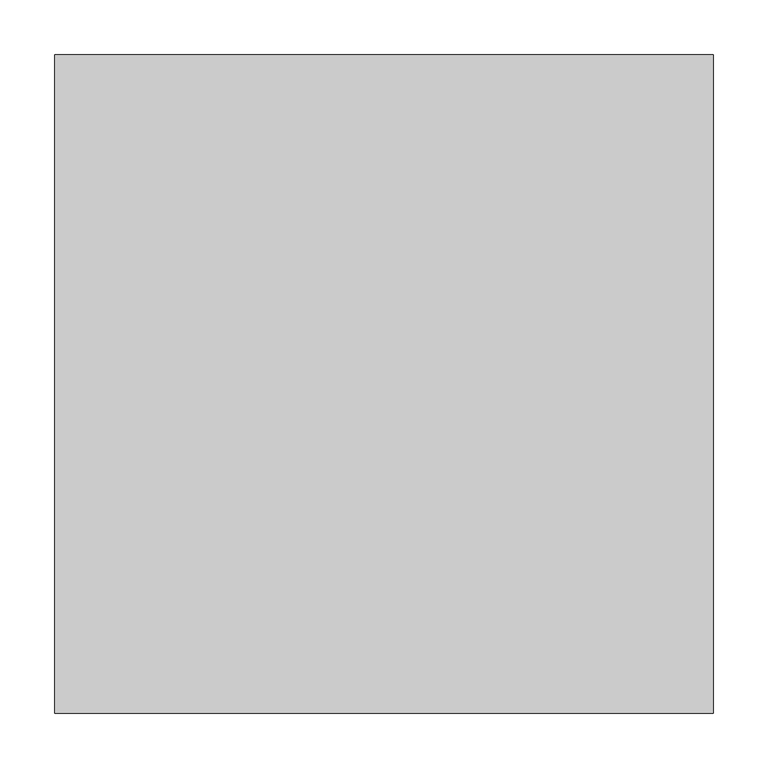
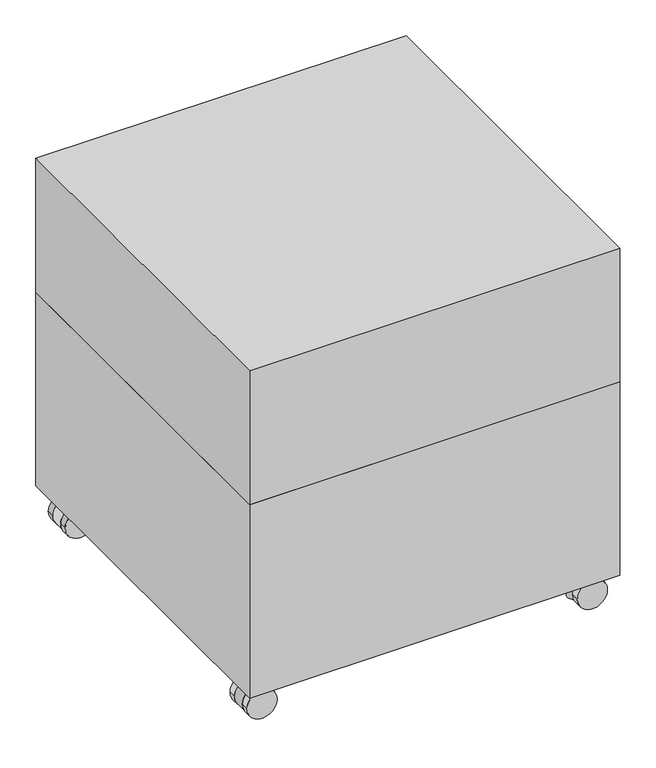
"""IFC4 building model written with IfcOpenShell, lengths in millimetres: furniture geometry, BK Library - Flipover - Medium : BK Library - Flipover - Medium."""

from ifc_helpers import new_model, si_unit, point, frame, frame_2d, origin, place, context, project, spatial, circle_curve, trimmed, segment, composite_curve, outline, extrude, faceted_brep, source, transform, mapped, element, save
from ifc_brep_helpers import plane_surface, cylinder_surface, advanced_brep


def furniture_4836a37e(model_context):
    return source(origin(), model_context, "Body", "SolidModel", [
        faceted_brep([(300.0, 300.0, 619.0527953), (-300.0, 300.0, 619.0527953), (-300.0, -300.0, 619.0527953), (300.0, -300.0, 619.0527953), (300.0, 300.0, 390.0527954), (300.0, -300.0, 390.0527954), (-300.0, -300.0, 390.0527954), (-300.0, 300.0, 390.0527954), (-9.5, 281.0, 390.0527954), (-279.0, 281.0, 390.0527954), (-279.0, 9.5, 390.0527954), (-9.5, 9.5, 390.0527954), (-279.0, -9.5, 390.0527954), (-279.0, -281.0, 390.0527954), (-9.5, -281.0, 390.0527954), (-9.5, -9.5, 390.0527954), (279.0, -281.0, 390.0527954), (279.0, -9.5, 390.0527954), (9.5, -9.5, 390.0527954), (9.5, -281.0, 390.0527954), (279.0, 281.0, 390.0527954), (9.5, 281.0, 390.0527954), (9.5, 9.5, 390.0527954), (279.0, 9.5, 390.0527954), (300.0, 300.0, 595.0527953), (-300.0, 300.0, 595.0527953), (-300.0, -300.0, 595.0527953), (300.0, -300.0, 595.0527953), (-9.5, 9.5, 595.0527953), (-9.5, 281.0, 595.0527953), (-279.0, 9.5, 595.0527953), (-279.0, 281.0, 595.0527953), (-9.5, -9.5, 595.0527953), (-279.0, -9.5, 595.0527953), (-9.5, -281.0, 595.0527953), (-279.0, -281.0, 595.0527953), (9.5, -281.0, 595.0527953), (279.0, -281.0, 595.0527953), (9.5, -9.5, 595.0527953), (279.0, -9.5, 595.0527953), (279.0, 9.5, 595.0527953), (279.0, 281.0, 595.0527953), (9.5, 9.5, 595.0527953), (9.5, 281.0, 595.0527953)], [[[0, 1, 2, 3]], [[4, 5, 6, 7], [8, 9, 10, 11], [12, 13, 14, 15], [16, 17, 18, 19], [20, 21, 22, 23]], [[1, 0, 24, 4, 7, 25]], [[2, 1, 25, 7, 6, 26]], [[3, 2, 26, 6, 5, 27]], [[0, 3, 27, 5, 4, 24]], [[8, 11, 28, 29]], [[11, 10, 30, 28]], [[10, 9, 31, 30]], [[9, 8, 29, 31]], [[12, 15, 32, 33]], [[15, 14, 34, 32]], [[14, 13, 35, 34]], [[13, 12, 33, 35]], [[16, 19, 36, 37]], [[19, 18, 38, 36]], [[18, 17, 39, 38]], [[17, 16, 37, 39]], [[20, 23, 40, 41]], [[23, 22, 42, 40]], [[22, 21, 43, 42]], [[21, 20, 41, 43]], [[29, 28, 30, 31]], [[33, 32, 34, 35]], [[37, 36, 38, 39]], [[41, 40, 42, 43]]]),
        extrude(outline(composite_curve([segment(trimmed(circle_curve(frame_2d((253.0070749, 254.962002)), 7.4539879), [point((245.5530869, 254.962002))], [point((260.4610628, 254.962002))], False, "CARTESIAN"), True, "CONTINUOUS"), segment(trimmed(circle_curve(frame_2d((253.0070749, 254.962002)), 7.4539879), [point((260.4610628, 254.962002))], [point((245.5530869, 254.962002))], False, "CARTESIAN"), True, "CONTINUOUS")], self_intersect=False)), frame((0.0, 0.0, 49.6907092), z_axis=(0.0, 0.0, 1.0), x_axis=(1.0, 0.0, 0.0)), (0.0, 0.0, 1.0), 8.9875516),
        advanced_brep(
        [(-251.467628, 244.2, 49.6907092), (-251.467628, 265.8, 49.6907092), (-267.5030829, 265.8, 49.6907092), (-267.5030829, 244.2, 49.6907092), (-251.467628, 265.8, 14.7426051), (-251.467628, 244.2, 14.7426051), (-289.8859363, 244.2, 14.7426051), (-289.8859363, 265.8, 14.7426051), (-267.5030829, 244.2, 48.7252101), (-267.5030829, 265.8, 48.7252101)],
        [
            (0, 1, circle_curve(frame((-251.467628, 255.0, 49.6907092), z_axis=(0.0, 0.0, 1.0), x_axis=(-1.0, 0.0, 0.0)), 10.8)),
            (1, 2),
            (2, 3),
            (3, 0),
            (4, 5, circle_curve(frame((-251.467628, 255.0, 14.7426051), z_axis=(0.0, 0.0, -1.0), x_axis=(-1.0, 0.0, 0.0)), 10.8)),
            (5, 6),
            (6, 7),
            (7, 4),
            (5, 0),
            (3, 8),
            (8, 6, circle_curve(frame((-267.5030829, 244.2, 24.3626051), z_axis=(0.0, -1.0, 0.0), x_axis=(-1.0, 0.0, 0.0)), 24.3626051)),
            (4, 1),
            (7, 9, circle_curve(frame((-267.5030829, 265.8, 24.3626051), z_axis=(0.0, 1.0, 0.0), x_axis=(-1.0, 0.0, 0.0)), 24.3626051)),
            (9, 2),
            (8, 9),
        ],
        [
            plane_surface(frame((-243.1404779, 244.2, 49.6907092), z_axis=(0.0, 0.0, 1.0), x_axis=(1.0, 0.0, 0.0))),
            plane_surface(frame((-243.1404779, 244.2, 14.7426051), z_axis=(0.0, 0.0, -1.0), x_axis=(-1.0, 0.0, 0.0))),
            plane_surface(frame((-301.73294, 244.2, 49.6907092), z_axis=(0.0, -1.0, 0.0), x_axis=(0.0, 0.0, -1.0))),
            cylinder_surface(frame((-251.467628, 255.0, 14.7426051), z_axis=(0.0, 0.0, 1.0), x_axis=(-1.0, 0.0, 0.0)), 10.8),
            plane_surface(frame((-251.467628, 265.8, 49.6907092), z_axis=(0.0, 1.0, 0.0), x_axis=(0.0, 0.0, -1.0))),
            cylinder_surface(frame((-267.5030829, 226.7777105, 24.3626051), z_axis=(0.0, -1.0, 0.0), x_axis=(-1.0, 0.0, 0.0)), 24.3626051),
            plane_surface(frame((-267.5030829, 276.0, 49.6907092), z_axis=(-1.0, 0.0, 0.0), x_axis=(0.0, -1.0, 0.0))),
        ],
        [
            (0, [[1, 2, 3, 4]]),
            (1, [[5, 6, 7, 8]]),
            (2, [[9, -4, 10, 11, -6]]),
            (3, [[-1, -9, -5, 12]]),
            (4, [[-12, -8, 13, 14, -2]]),
            (5, [[15, -13, -7, -11]]),
            (6, [[-15, -10, -3, -14]]),
        ],
    ),
        advanced_brep(
        [(-243.1404779, 278.8, 24.3626051), (-291.865688, 278.8, 24.3626051), (-243.1404779, 265.8, 24.3626051), (-267.5030829, 265.8, 48.7252101), (-291.865688, 265.8, 24.3626051), (-289.8859363, 265.8, 14.7426051), (-291.865688, 276.0, 24.3626051)],
        [
            (0, 1, circle_curve(frame((-267.5030829, 278.8, 24.3626051), z_axis=(0.0, 1.0, 0.0), x_axis=(-1.0, 0.0, 0.0)), 24.3626051)),
            (1, 0, circle_curve(frame((-267.5030829, 278.8, 24.3626051), z_axis=(0.0, 1.0, 0.0), x_axis=(-1.0, 0.0, 0.0)), 24.3626051)),
            (2, 3, circle_curve(frame((-267.5030829, 265.8, 24.3626051), z_axis=(0.0, -1.0, 0.0), x_axis=(-1.0, 0.0, 0.0)), 24.3626051)),
            (3, 4, circle_curve(frame((-267.5030829, 265.8, 24.3626051), z_axis=(0.0, -1.0, 0.0), x_axis=(-1.0, 0.0, 0.0)), 24.3626051)),
            (4, 5, circle_curve(frame((-267.5030829, 265.8, 24.3626051), z_axis=(0.0, -1.0, 0.0), x_axis=(-1.0, 0.0, 0.0)), 24.3626051)),
            (5, 2, circle_curve(frame((-267.5030829, 265.8, 24.3626051), z_axis=(0.0, -1.0, 0.0), x_axis=(-1.0, 0.0, 0.0)), 24.3626051)),
            (0, 2),
            (4, 6),
            (6, 1),
        ],
        [
            plane_surface(frame((-291.865688, 278.8, 24.3626051), z_axis=(0.0, 1.0, 0.0), x_axis=(0.0, 0.0, 1.0))),
            plane_surface(frame((-291.865688, 265.8, 24.3626051), z_axis=(0.0, -1.0, 0.0), x_axis=(0.0, 0.0, -1.0))),
            cylinder_surface(frame((-267.5030829, 265.8, 24.3626051), z_axis=(0.0, 1.0, 0.0), x_axis=(-1.0, 0.0, 0.0)), 24.3626051),
        ],
        [
            (0, [[1, 2]]),
            (1, [[3, 4, 5, 6]]),
            (2, [[-1, 7, -6, -5, 8, 9]]),
            (2, [[-2, -9, -8, -4, -3, -7]]),
        ],
    ),
        advanced_brep(
        [(-243.1404779, 244.2, 24.3626051), (-289.8859363, 244.2, 14.7426051), (-291.865688, 244.2, 24.3626051), (-267.5030829, 244.2, 48.7252101), (-243.1404779, 231.2, 24.3626051), (-267.5030829, 231.2, 48.7252101), (-291.865688, 231.2, 24.3626051), (-289.8859363, 231.2, 14.7426051)],
        [
            (0, 1, circle_curve(frame((-267.5030829, 244.2, 24.3626051), z_axis=(0.0, 1.0, 0.0), x_axis=(-1.0, 0.0, 0.0)), 24.3626051)),
            (1, 2, circle_curve(frame((-267.5030829, 244.2, 24.3626051), z_axis=(0.0, 1.0, 0.0), x_axis=(-1.0, 0.0, 0.0)), 24.3626051)),
            (2, 3, circle_curve(frame((-267.5030829, 244.2, 24.3626051), z_axis=(0.0, 1.0, 0.0), x_axis=(-1.0, 0.0, 0.0)), 24.3626051)),
            (3, 0, circle_curve(frame((-267.5030829, 244.2, 24.3626051), z_axis=(0.0, 1.0, 0.0), x_axis=(-1.0, 0.0, 0.0)), 24.3626051)),
            (4, 5, circle_curve(frame((-267.5030829, 231.2, 24.3626051), z_axis=(0.0, -1.0, 0.0), x_axis=(-1.0, 0.0, 0.0)), 24.3626051)),
            (5, 6, circle_curve(frame((-267.5030829, 231.2, 24.3626051), z_axis=(0.0, -1.0, 0.0), x_axis=(-1.0, 0.0, 0.0)), 24.3626051)),
            (6, 7, circle_curve(frame((-267.5030829, 231.2, 24.3626051), z_axis=(0.0, -1.0, 0.0), x_axis=(-1.0, 0.0, 0.0)), 24.3626051)),
            (7, 4, circle_curve(frame((-267.5030829, 231.2, 24.3626051), z_axis=(0.0, -1.0, 0.0), x_axis=(-1.0, 0.0, 0.0)), 24.3626051)),
            (0, 4),
            (6, 2),
        ],
        [
            plane_surface(frame((-291.865688, 244.2, 24.3626051), z_axis=(0.0, 1.0, 0.0), x_axis=(0.0, 0.0, 1.0))),
            plane_surface(frame((-291.865688, 231.2, 24.3626051), z_axis=(0.0, -1.0, 0.0), x_axis=(0.0, 0.0, -1.0))),
            cylinder_surface(frame((-267.5030829, 231.2, 24.3626051), z_axis=(0.0, 1.0, 0.0), x_axis=(-1.0, 0.0, 0.0)), 24.3626051),
        ],
        [
            (0, [[1, 2, 3, 4]]),
            (1, [[5, 6, 7, 8]]),
            (2, [[9, -8, -7, 10, -2, -1]]),
            (2, [[-9, -4, -3, -10, -6, -5]]),
        ],
    ),
        advanced_brep(
        [(251.467628, 265.8, 49.6907092), (251.467628, 244.2, 49.6907092), (267.5030829, 244.2, 49.6907092), (267.5030829, 265.8, 49.6907092), (251.467628, 244.2, 14.7426051), (251.467628, 265.8, 14.7426051), (289.8859363, 265.8, 14.7426051), (289.8859363, 244.2, 14.7426051), (267.5030829, 244.2, 48.7252101), (267.5030829, 265.8, 48.7252101)],
        [
            (0, 1, circle_curve(frame((251.467628, 255.0, 49.6907092), z_axis=(0.0, 0.0, 1.0), x_axis=(1.0, 0.0, 0.0)), 10.8)),
            (1, 2),
            (2, 3),
            (3, 0),
            (4, 5, circle_curve(frame((251.467628, 255.0, 14.7426051), z_axis=(0.0, 0.0, -1.0), x_axis=(1.0, 0.0, 0.0)), 10.8)),
            (5, 6),
            (6, 7),
            (7, 4),
            (1, 4),
            (7, 8, circle_curve(frame((267.5030829, 244.2, 24.3626051), z_axis=(0.0, -1.0, 0.0), x_axis=(1.0, 0.0, 0.0)), 24.3626051)),
            (8, 2),
            (0, 5),
            (3, 9),
            (9, 6, circle_curve(frame((267.5030829, 265.8, 24.3626051), z_axis=(0.0, 1.0, 0.0), x_axis=(1.0, 0.0, 0.0)), 24.3626051)),
            (9, 8),
        ],
        [
            plane_surface(frame((301.73294, 244.2, 49.6907092), z_axis=(0.0, 0.0, 1.0), x_axis=(0.0, 1.0, 0.0))),
            plane_surface(frame((301.73294, 244.2, 14.7426051), z_axis=(0.0, 0.0, -1.0), x_axis=(0.0, -1.0, 0.0))),
            plane_surface(frame((251.467628, 244.2, 49.6907092), z_axis=(0.0, -1.0, 0.0), x_axis=(0.0, 0.0, -1.0))),
            cylinder_surface(frame((251.467628, 255.0, 14.7426051), z_axis=(0.0, 0.0, 1.0), x_axis=(1.0, 0.0, 0.0)), 10.8),
            plane_surface(frame((301.73294, 265.8, 49.6907092), z_axis=(0.0, 1.0, 0.0), x_axis=(0.0, 0.0, -1.0))),
            cylinder_surface(frame((267.5030829, 226.7777105, 24.3626051), z_axis=(0.0, -1.0, 0.0), x_axis=(1.0, 0.0, 0.0)), 24.3626051),
            plane_surface(frame((267.5030829, 276.0, 48.7252101), z_axis=(1.0, 0.0, 0.0), x_axis=(0.0, -1.0, 0.0))),
        ],
        [
            (0, [[1, 2, 3, 4]]),
            (1, [[5, 6, 7, 8]]),
            (2, [[9, -8, 10, 11, -2]]),
            (3, [[-1, 12, -5, -9]]),
            (4, [[-12, -4, 13, 14, -6]]),
            (5, [[15, -10, -7, -14]]),
            (6, [[-15, -13, -3, -11]]),
        ],
    ),
        advanced_brep(
        [(243.1404779, 278.8, 24.3626051), (291.865688, 278.8, 24.3626051), (243.1404779, 265.8, 24.3626051), (289.8859363, 265.8, 14.7426051), (291.865688, 265.8, 24.3626051), (267.5030829, 265.8, 48.7252101), (291.865688, 276.0, 24.3626051)],
        [
            (0, 1, circle_curve(frame((267.5030829, 278.8, 24.3626051), z_axis=(0.0, 1.0, 0.0), x_axis=(1.0, 0.0, 0.0)), 24.3626051)),
            (1, 0, circle_curve(frame((267.5030829, 278.8, 24.3626051), z_axis=(0.0, 1.0, 0.0), x_axis=(1.0, 0.0, 0.0)), 24.3626051)),
            (2, 3, circle_curve(frame((267.5030829, 265.8, 24.3626051), z_axis=(0.0, -1.0, 0.0), x_axis=(1.0, 0.0, 0.0)), 24.3626051)),
            (3, 4, circle_curve(frame((267.5030829, 265.8, 24.3626051), z_axis=(0.0, -1.0, 0.0), x_axis=(1.0, 0.0, 0.0)), 24.3626051)),
            (4, 5, circle_curve(frame((267.5030829, 265.8, 24.3626051), z_axis=(0.0, -1.0, 0.0), x_axis=(1.0, 0.0, 0.0)), 24.3626051)),
            (5, 2, circle_curve(frame((267.5030829, 265.8, 24.3626051), z_axis=(0.0, -1.0, 0.0), x_axis=(1.0, 0.0, 0.0)), 24.3626051)),
            (1, 6),
            (6, 4),
            (2, 0),
        ],
        [
            plane_surface(frame((291.865688, 278.8, 24.3626051), z_axis=(0.0, 1.0, 0.0), x_axis=(0.0, 0.0, -1.0))),
            plane_surface(frame((291.865688, 265.8, 24.3626051), z_axis=(0.0, -1.0, 0.0), x_axis=(0.0, 0.0, 1.0))),
            cylinder_surface(frame((267.5030829, 265.8, 24.3626051), z_axis=(0.0, 1.0, 0.0), x_axis=(1.0, 0.0, 0.0)), 24.3626051),
        ],
        [
            (0, [[1, 2]]),
            (1, [[3, 4, 5, 6]]),
            (2, [[-2, 7, 8, -4, -3, 9]]),
            (2, [[-1, -9, -6, -5, -8, -7]]),
        ],
    ),
        advanced_brep(
        [(243.1404779, 244.2, 24.3626051), (267.5030829, 244.2, 48.7252101), (291.865688, 244.2, 24.3626051), (289.8859363, 244.2, 14.7426051), (243.1404779, 231.2, 24.3626051), (289.8859363, 231.2, 14.7426051), (291.865688, 231.2, 24.3626051), (267.5030829, 231.2, 48.7252101)],
        [
            (0, 1, circle_curve(frame((267.5030829, 244.2, 24.3626051), z_axis=(0.0, 1.0, 0.0), x_axis=(1.0, 0.0, 0.0)), 24.3626051)),
            (1, 2, circle_curve(frame((267.5030829, 244.2, 24.3626051), z_axis=(0.0, 1.0, 0.0), x_axis=(1.0, 0.0, 0.0)), 24.3626051)),
            (2, 3, circle_curve(frame((267.5030829, 244.2, 24.3626051), z_axis=(0.0, 1.0, 0.0), x_axis=(1.0, 0.0, 0.0)), 24.3626051)),
            (3, 0, circle_curve(frame((267.5030829, 244.2, 24.3626051), z_axis=(0.0, 1.0, 0.0), x_axis=(1.0, 0.0, 0.0)), 24.3626051)),
            (4, 5, circle_curve(frame((267.5030829, 231.2, 24.3626051), z_axis=(0.0, -1.0, 0.0), x_axis=(1.0, 0.0, 0.0)), 24.3626051)),
            (5, 6, circle_curve(frame((267.5030829, 231.2, 24.3626051), z_axis=(0.0, -1.0, 0.0), x_axis=(1.0, 0.0, 0.0)), 24.3626051)),
            (6, 7, circle_curve(frame((267.5030829, 231.2, 24.3626051), z_axis=(0.0, -1.0, 0.0), x_axis=(1.0, 0.0, 0.0)), 24.3626051)),
            (7, 4, circle_curve(frame((267.5030829, 231.2, 24.3626051), z_axis=(0.0, -1.0, 0.0), x_axis=(1.0, 0.0, 0.0)), 24.3626051)),
            (2, 6),
            (4, 0),
        ],
        [
            plane_surface(frame((291.865688, 244.2, 24.3626051), z_axis=(0.0, 1.0, 0.0), x_axis=(0.0, 0.0, -1.0))),
            plane_surface(frame((291.865688, 231.2, 24.3626051), z_axis=(0.0, -1.0, 0.0), x_axis=(0.0, 0.0, 1.0))),
            cylinder_surface(frame((267.5030829, 231.2, 24.3626051), z_axis=(0.0, 1.0, 0.0), x_axis=(1.0, 0.0, 0.0)), 24.3626051),
        ],
        [
            (0, [[1, 2, 3, 4]]),
            (1, [[5, 6, 7, 8]]),
            (2, [[9, -6, -5, 10, -4, -3]]),
            (2, [[-9, -2, -1, -10, -8, -7]]),
        ],
    ),
        extrude(outline(composite_curve([segment(trimmed(circle_curve(frame_2d((-253.0070749, 254.962002)), 7.4539879), [point((-245.5530869, 254.962002))], [point((-260.4610628, 254.962002))], False, "CARTESIAN"), True, "CONTINUOUS"), segment(trimmed(circle_curve(frame_2d((-253.0070749, 254.962002)), 7.4539879), [point((-260.4610628, 254.962002))], [point((-245.5530869, 254.962002))], False, "CARTESIAN"), True, "CONTINUOUS")], self_intersect=False)), frame((0.0, 0.0, 49.6907092), z_axis=(0.0, 0.0, 1.0), x_axis=(1.0, 0.0, 0.0)), (0.0, 0.0, 1.0), 8.9875516),
        advanced_brep(
        [(-251.467628, -265.8, 49.6907092), (-251.467628, -244.2, 49.6907092), (-267.5030829, -244.2, 49.6907092), (-267.5030829, -265.8, 49.6907092), (-251.467628, -244.2, 14.7426051), (-251.467628, -265.8, 14.7426051), (-289.8859363, -265.8, 14.7426051), (-289.8859363, -244.2, 14.7426051), (-267.5030829, -244.2, 48.7252101), (-267.5030829, -265.8, 48.7252101)],
        [
            (0, 1, circle_curve(frame((-251.467628, -255.0, 49.6907092), z_axis=(0.0, 0.0, 1.0), x_axis=(-1.0, 0.0, 0.0)), 10.8)),
            (1, 2),
            (2, 3),
            (3, 0),
            (4, 5, circle_curve(frame((-251.467628, -255.0, 14.7426051), z_axis=(0.0, 0.0, -1.0), x_axis=(-1.0, 0.0, 0.0)), 10.8)),
            (5, 6),
            (6, 7),
            (7, 4),
            (1, 4),
            (7, 8, circle_curve(frame((-267.5030829, -244.2, 24.3626051), z_axis=(0.0, 1.0, 0.0), x_axis=(-1.0, 0.0, 0.0)), 24.3626051)),
            (8, 2),
            (0, 5),
            (3, 9),
            (9, 6, circle_curve(frame((-267.5030829, -265.8, 24.3626051), z_axis=(0.0, -1.0, 0.0), x_axis=(-1.0, 0.0, 0.0)), 24.3626051)),
            (9, 8),
        ],
        [
            plane_surface(frame((-301.73294, -244.2, 49.6907092), z_axis=(0.0, 0.0, 1.0), x_axis=(0.0, -1.0, 0.0))),
            plane_surface(frame((-301.73294, -244.2, 14.7426051), z_axis=(0.0, 0.0, -1.0), x_axis=(0.0, 1.0, 0.0))),
            plane_surface(frame((-251.467628, -244.2, 49.6907092), z_axis=(0.0, 1.0, 0.0), x_axis=(0.0, 0.0, -1.0))),
            cylinder_surface(frame((-251.467628, -255.0, 14.7426051), z_axis=(0.0, 0.0, 1.0), x_axis=(-1.0, 0.0, 0.0)), 10.8),
            plane_surface(frame((-301.73294, -265.8, 49.6907092), z_axis=(0.0, -1.0, 0.0), x_axis=(0.0, 0.0, -1.0))),
            cylinder_surface(frame((-267.5030829, -226.7777105, 24.3626051), z_axis=(0.0, 1.0, 0.0), x_axis=(-1.0, 0.0, 0.0)), 24.3626051),
            plane_surface(frame((-267.5030829, -276.0, 48.7252101), z_axis=(-1.0, 0.0, 0.0), x_axis=(0.0, 1.0, 0.0))),
        ],
        [
            (0, [[1, 2, 3, 4]]),
            (1, [[5, 6, 7, 8]]),
            (2, [[9, -8, 10, 11, -2]]),
            (3, [[-1, 12, -5, -9]]),
            (4, [[-12, -4, 13, 14, -6]]),
            (5, [[15, -10, -7, -14]]),
            (6, [[-15, -13, -3, -11]]),
        ],
    ),
        advanced_brep(
        [(-243.1404779, -278.8, 24.3626051), (-291.865688, -278.8, 24.3626051), (-243.1404779, -265.8, 24.3626051), (-289.8859363, -265.8, 14.7426051), (-291.865688, -265.8, 24.3626051), (-267.5030829, -265.8, 48.7252101), (-291.865688, -276.0, 24.3626051)],
        [
            (0, 1, circle_curve(frame((-267.5030829, -278.8, 24.3626051), z_axis=(0.0, -1.0, 0.0), x_axis=(-1.0, 0.0, 0.0)), 24.3626051)),
            (1, 0, circle_curve(frame((-267.5030829, -278.8, 24.3626051), z_axis=(0.0, -1.0, 0.0), x_axis=(-1.0, 0.0, 0.0)), 24.3626051)),
            (2, 3, circle_curve(frame((-267.5030829, -265.8, 24.3626051), z_axis=(0.0, 1.0, 0.0), x_axis=(-1.0, 0.0, 0.0)), 24.3626051)),
            (3, 4, circle_curve(frame((-267.5030829, -265.8, 24.3626051), z_axis=(0.0, 1.0, 0.0), x_axis=(-1.0, 0.0, 0.0)), 24.3626051)),
            (4, 5, circle_curve(frame((-267.5030829, -265.8, 24.3626051), z_axis=(0.0, 1.0, 0.0), x_axis=(-1.0, 0.0, 0.0)), 24.3626051)),
            (5, 2, circle_curve(frame((-267.5030829, -265.8, 24.3626051), z_axis=(0.0, 1.0, 0.0), x_axis=(-1.0, 0.0, 0.0)), 24.3626051)),
            (1, 6),
            (6, 4),
            (2, 0),
        ],
        [
            plane_surface(frame((-291.865688, -278.8, 24.3626051), z_axis=(0.0, -1.0, 0.0), x_axis=(0.0, 0.0, -1.0))),
            plane_surface(frame((-291.865688, -265.8, 24.3626051), z_axis=(0.0, 1.0, 0.0), x_axis=(0.0, 0.0, 1.0))),
            cylinder_surface(frame((-267.5030829, -265.8, 24.3626051), z_axis=(0.0, -1.0, 0.0), x_axis=(-1.0, 0.0, 0.0)), 24.3626051),
        ],
        [
            (0, [[1, 2]]),
            (1, [[3, 4, 5, 6]]),
            (2, [[-2, 7, 8, -4, -3, 9]]),
            (2, [[-1, -9, -6, -5, -8, -7]]),
        ],
    ),
        advanced_brep(
        [(-243.1404779, -244.2, 24.3626051), (-267.5030829, -244.2, 48.7252101), (-291.865688, -244.2, 24.3626051), (-289.8859363, -244.2, 14.7426051), (-243.1404779, -231.2, 24.3626051), (-289.8859363, -231.2, 14.7426051), (-291.865688, -231.2, 24.3626051), (-267.5030829, -231.2, 48.7252101)],
        [
            (0, 1, circle_curve(frame((-267.5030829, -244.2, 24.3626051), z_axis=(0.0, -1.0, 0.0), x_axis=(-1.0, 0.0, 0.0)), 24.3626051)),
            (1, 2, circle_curve(frame((-267.5030829, -244.2, 24.3626051), z_axis=(0.0, -1.0, 0.0), x_axis=(-1.0, 0.0, 0.0)), 24.3626051)),
            (2, 3, circle_curve(frame((-267.5030829, -244.2, 24.3626051), z_axis=(0.0, -1.0, 0.0), x_axis=(-1.0, 0.0, 0.0)), 24.3626051)),
            (3, 0, circle_curve(frame((-267.5030829, -244.2, 24.3626051), z_axis=(0.0, -1.0, 0.0), x_axis=(-1.0, 0.0, 0.0)), 24.3626051)),
            (4, 5, circle_curve(frame((-267.5030829, -231.2, 24.3626051), z_axis=(0.0, 1.0, 0.0), x_axis=(-1.0, 0.0, 0.0)), 24.3626051)),
            (5, 6, circle_curve(frame((-267.5030829, -231.2, 24.3626051), z_axis=(0.0, 1.0, 0.0), x_axis=(-1.0, 0.0, 0.0)), 24.3626051)),
            (6, 7, circle_curve(frame((-267.5030829, -231.2, 24.3626051), z_axis=(0.0, 1.0, 0.0), x_axis=(-1.0, 0.0, 0.0)), 24.3626051)),
            (7, 4, circle_curve(frame((-267.5030829, -231.2, 24.3626051), z_axis=(0.0, 1.0, 0.0), x_axis=(-1.0, 0.0, 0.0)), 24.3626051)),
            (2, 6),
            (4, 0),
        ],
        [
            plane_surface(frame((-291.865688, -244.2, 24.3626051), z_axis=(0.0, -1.0, 0.0), x_axis=(0.0, 0.0, -1.0))),
            plane_surface(frame((-291.865688, -231.2, 24.3626051), z_axis=(0.0, 1.0, 0.0), x_axis=(0.0, 0.0, 1.0))),
            cylinder_surface(frame((-267.5030829, -231.2, 24.3626051), z_axis=(0.0, -1.0, 0.0), x_axis=(-1.0, 0.0, 0.0)), 24.3626051),
        ],
        [
            (0, [[1, 2, 3, 4]]),
            (1, [[5, 6, 7, 8]]),
            (2, [[9, -6, -5, 10, -4, -3]]),
            (2, [[-9, -2, -1, -10, -8, -7]]),
        ],
    ),
        extrude(outline(composite_curve([segment(trimmed(circle_curve(frame_2d((24.3626051, 267.5030829)), 24.3626051), [point((24.3626051, 243.1404779))], [point((24.3626051, 291.865688))], False, "CARTESIAN"), True, "CONTINUOUS"), segment(trimmed(circle_curve(frame_2d((24.3626051, 267.5030829)), 24.3626051), [point((24.3626051, 291.865688))], [point((24.3626051, 243.1404779))], False, "CARTESIAN"), True, "CONTINUOUS")], self_intersect=False)), frame((0.0, -278.8, 0.0), z_axis=(0.0, 1.0, 0.0), x_axis=(0.0, 0.0, 1.0)), (0.0, 0.0, 1.0), 13.0),
        extrude(outline(composite_curve([segment(trimmed(circle_curve(frame_2d((24.3626051, 267.5030829)), 24.3626051), [point((24.3626051, 243.1404779))], [point((24.3626051, 291.865688))], False, "CARTESIAN"), True, "CONTINUOUS"), segment(trimmed(circle_curve(frame_2d((24.3626051, 267.5030829)), 24.3626051), [point((24.3626051, 291.865688))], [point((24.3626051, 243.1404779))], False, "CARTESIAN"), True, "CONTINUOUS")], self_intersect=False)), frame((0.0, -244.2, 0.0), z_axis=(0.0, 1.0, 0.0), x_axis=(0.0, 0.0, 1.0)), (0.0, 0.0, 1.0), 13.0),
        extrude(outline(composite_curve([segment(trimmed(circle_curve(frame_2d((-253.0070749, -254.962002)), 7.4539879), [point((-245.5530869, -254.962002))], [point((-260.4610628, -254.962002))], False, "CARTESIAN"), True, "CONTINUOUS"), segment(trimmed(circle_curve(frame_2d((-253.0070749, -254.962002)), 7.4539879), [point((-260.4610628, -254.962002))], [point((-245.5530869, -254.962002))], False, "CARTESIAN"), True, "CONTINUOUS")], self_intersect=False)), frame((0.0, 0.0, 49.6907092), z_axis=(0.0, 0.0, 1.0), x_axis=(1.0, 0.0, 0.0)), (0.0, 0.0, 1.0), 8.9875516),
        extrude(outline(composite_curve([segment(trimmed(circle_curve(frame_2d((253.0070749, -254.962002)), 7.4539879), [point((245.5530869, -254.962002))], [point((260.4610628, -254.962002))], False, "CARTESIAN"), True, "CONTINUOUS"), segment(trimmed(circle_curve(frame_2d((253.0070749, -254.962002)), 7.4539879), [point((260.4610628, -254.962002))], [point((245.5530869, -254.962002))], False, "CARTESIAN"), True, "CONTINUOUS")], self_intersect=False)), frame((0.0, 0.0, 49.6907092), z_axis=(0.0, 0.0, 1.0), x_axis=(1.0, 0.0, 0.0)), (0.0, 0.0, 1.0), 8.9875516),
        advanced_brep(
        [(251.467628, -244.2, 49.6907092), (251.467628, -265.8, 49.6907092), (267.5030829, -265.8, 49.6907092), (267.5030829, -244.2, 49.6907092), (251.467628, -265.8, 14.7426051), (251.467628, -244.2, 14.7426051), (289.8859363, -244.2, 14.7426051), (289.8859363, -265.8, 14.7426051), (267.5030829, -244.2, 48.7252101), (267.5030829, -265.8, 48.7252101)],
        [
            (0, 1, circle_curve(frame((251.467628, -255.0, 49.6907092), z_axis=(0.0, 0.0, 1.0), x_axis=(1.0, 0.0, 0.0)), 10.8)),
            (1, 2),
            (2, 3),
            (3, 0),
            (4, 5, circle_curve(frame((251.467628, -255.0, 14.7426051), z_axis=(0.0, 0.0, -1.0), x_axis=(1.0, 0.0, 0.0)), 10.8)),
            (5, 6),
            (6, 7),
            (7, 4),
            (5, 0),
            (3, 8),
            (8, 6, circle_curve(frame((267.5030829, -244.2, 24.3626051), z_axis=(0.0, 1.0, 0.0), x_axis=(1.0, 0.0, 0.0)), 24.3626051)),
            (4, 1),
            (7, 9, circle_curve(frame((267.5030829, -265.8, 24.3626051), z_axis=(0.0, -1.0, 0.0), x_axis=(1.0, 0.0, 0.0)), 24.3626051)),
            (9, 2),
            (8, 9),
        ],
        [
            plane_surface(frame((243.1404779, -244.2, 49.6907092), z_axis=(0.0, 0.0, 1.0), x_axis=(-1.0, 0.0, 0.0))),
            plane_surface(frame((243.1404779, -244.2, 14.7426051), z_axis=(0.0, 0.0, -1.0), x_axis=(1.0, 0.0, 0.0))),
            plane_surface(frame((301.73294, -244.2, 49.6907092), z_axis=(0.0, 1.0, 0.0), x_axis=(0.0, 0.0, -1.0))),
            cylinder_surface(frame((251.467628, -255.0, 14.7426051), z_axis=(0.0, 0.0, 1.0), x_axis=(1.0, 0.0, 0.0)), 10.8),
            plane_surface(frame((251.467628, -265.8, 49.6907092), z_axis=(0.0, -1.0, 0.0), x_axis=(0.0, 0.0, -1.0))),
            cylinder_surface(frame((267.5030829, -226.7777105, 24.3626051), z_axis=(0.0, 1.0, 0.0), x_axis=(1.0, 0.0, 0.0)), 24.3626051),
            plane_surface(frame((267.5030829, -276.0, 49.6907092), z_axis=(1.0, 0.0, 0.0), x_axis=(0.0, 1.0, 0.0))),
        ],
        [
            (0, [[1, 2, 3, 4]]),
            (1, [[5, 6, 7, 8]]),
            (2, [[9, -4, 10, 11, -6]]),
            (3, [[-1, -9, -5, 12]]),
            (4, [[-12, -8, 13, 14, -2]]),
            (5, [[15, -13, -7, -11]]),
            (6, [[-15, -10, -3, -14]]),
        ],
    ),
        faceted_brep([(300.0, 300.0, 390.0527954), (-300.0, 300.0, 390.0527954), (-300.0, -300.0, 390.0527954), (300.0, -300.0, 390.0527954), (-279.0, -281.0, 390.0527954), (-279.0, 281.0, 390.0527954), (279.0, 281.0, 390.0527954), (279.0, -281.0, 390.0527954), (300.0, 300.0, 58.6782608), (300.0, -300.0, 58.6782608), (-300.0, -300.0, 58.6782608), (-300.0, 300.0, 58.6782608), (-279.0, -281.0, 79.6782608), (-279.0, 281.0, 79.6782608), (279.0, 281.0, 79.6782608), (279.0, -281.0, 79.6782608)], [[[0, 1, 2, 3], [4, 5, 6, 7]], [[8, 9, 10, 11]], [[1, 0, 8, 11]], [[2, 1, 11, 10]], [[3, 2, 10, 9]], [[0, 3, 9, 8]], [[5, 4, 12, 13]], [[6, 5, 13, 14]], [[7, 6, 14, 15]], [[4, 7, 15, 12]], [[13, 12, 15, 14]]]),
    ])


if __name__ == "__main__":
    model = new_model("IFC4")
    model_context = context("Model", 3, world=origin())
    ifc_project = project(units=[si_unit("LENGTHUNIT", "METRE", prefix="MILLI")], contexts=[model_context])
    site = spatial("IfcSite", under=ifc_project)
    building = spatial("IfcBuilding", under=site)
    placement = place(None, origin())
    furniture_shape = furniture_4836a37e(model_context)
    element("IfcFurniture", 1, ObjectType="BK Library - Flipover - Medium : BK Library - Flipover - Medium", at=placement, inside=building, context=model_context, shape_type="MappedRepresentation", body=[
        mapped(furniture_shape, transform((0.0, 0.0, 0.0), x_axis=(1.0, 0.0, 0.0), y_axis=(0.0, 1.0, 0.0), z_axis=(0.0, 0.0, 1.0))),
    ])
    save(model, "model.ifc")
